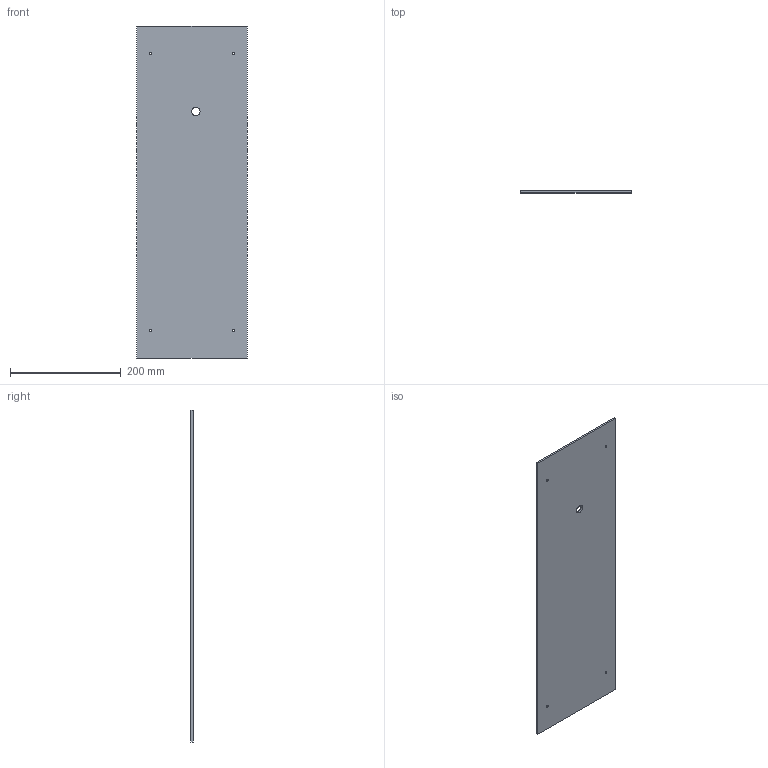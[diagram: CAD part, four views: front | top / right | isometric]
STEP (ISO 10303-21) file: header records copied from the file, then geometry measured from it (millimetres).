
FILE_DESCRIPTION(('Open CASCADE Model'),'2;1');
FILE_NAME('Open CASCADE Shape Model','2026-11-14T16:01:26',('Author'),( 'Open CASCADE'),'Open CASCADE STEP processor 7.9','Open CASCADE 7.9' ,'Unknown');
FILE_SCHEMA(('AUTOMOTIVE_DESIGN { 1 0 10303 214 1 1 1 1 }'));
Length unit declared in the file: millimetre
Products named in the file (1): Open CASCADE STEP translator 7.9 64
Bounding box: 200 x 3.96 x 600 mm (x, y, z)
Volume: 474248.3 mm3; surface area: 246265.9 mm2
Topology: 1 solids, 1 shells, 11 faces, 27 edges, 18 vertices
Faces by surface type: plane 6, cylinder 5
Full cylindrical faces by diameter (mm): 4.5 x4, 15 x1
Entity records: 712 total; most frequent: DIRECTION 115, CARTESIAN_POINT 111, LINE 61, VECTOR 61, ORIENTED_EDGE 54, PCURVE 54, DEFINITIONAL_REPRESENTATION 54, EDGE_CURVE 27
